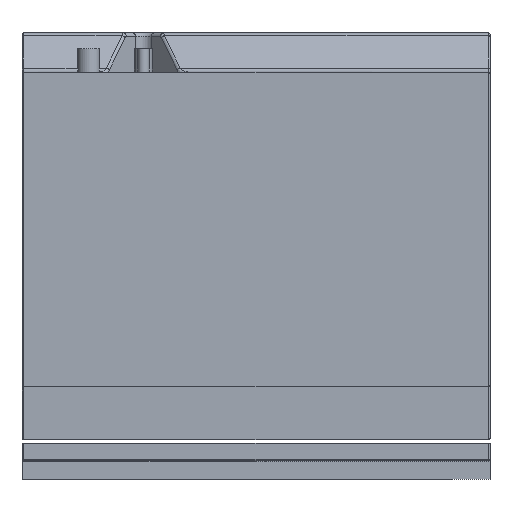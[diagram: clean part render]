
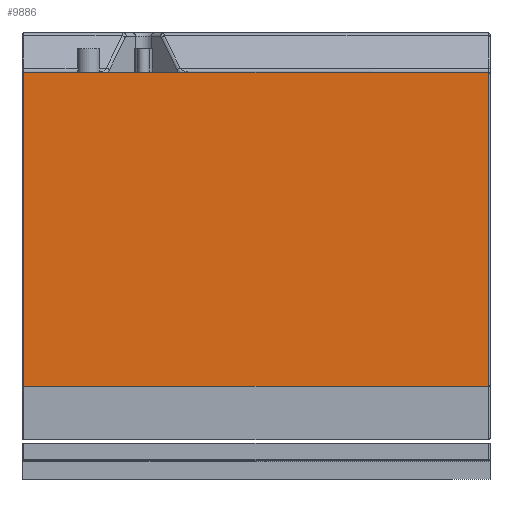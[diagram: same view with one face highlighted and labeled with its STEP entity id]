
A CAD part, front view. The second image highlights one B-rep face of the part: STEP entity #9886.
In plain terms, the highlighted planar face has unit normal (0, -1, 0).
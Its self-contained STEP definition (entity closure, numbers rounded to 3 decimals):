
#36 = EDGE_CURVE ( 'NONE', #9292, #16362, #5706, .T. ) ;
#37 = CARTESIAN_POINT ( 'NONE',  ( 299., 0., 0. ) ) ;
#1488 = CARTESIAN_POINT ( 'NONE',  ( 299., 0., 0. ) ) ;
#1980 = VECTOR ( 'NONE', #8122, 1000. ) ;
#2261 = ORIENTED_EDGE ( 'NONE', *, *, #16527, .T. ) ;
#3400 = DIRECTION ( 'NONE',  ( 0., 0., -1. ) ) ;
#3730 = VECTOR ( 'NONE', #3400, 1000. ) ;
#4087 = LINE ( 'NONE', #1488, #10950 ) ;
#4209 = EDGE_LOOP ( 'NONE', ( #2261, #5014, #5067, #5437 ) ) ;
#4679 = LINE ( 'NONE', #7855, #1980 ) ;
#4833 = VECTOR ( 'NONE', #16314, 1000. ) ;
#5014 = ORIENTED_EDGE ( 'NONE', *, *, #11289, .T. ) ;
#5067 = ORIENTED_EDGE ( 'NONE', *, *, #9782, .F. ) ;
#5437 = ORIENTED_EDGE ( 'NONE', *, *, #36, .T. ) ;
#5555 = LINE ( 'NONE', #11387, #3730 ) ;
#5706 = LINE ( 'NONE', #8548, #4833 ) ;
#6609 = PLANE ( 'NONE',  #16673 ) ;
#7855 = CARTESIAN_POINT ( 'NONE',  ( 299., 0., -401.7 ) ) ;
#8122 = DIRECTION ( 'NONE',  ( -1., 0., 0. ) ) ;
#8166 = DIRECTION ( 'NONE',  ( -1., 0., 0. ) ) ;
#8548 = CARTESIAN_POINT ( 'NONE',  ( 297., 0., 0. ) ) ;
#9292 = VERTEX_POINT ( 'NONE', #10655 ) ;
#9782 = EDGE_CURVE ( 'NONE', #9292, #15290, #4679, .T. ) ;
#9886 = ADVANCED_FACE ( 'NONE', ( #17289 ), #6609, .F. ) ;
#10386 = CARTESIAN_POINT ( 'NONE',  ( -297., 0., 0. ) ) ;
#10655 = CARTESIAN_POINT ( 'NONE',  ( 297., 0., -401.7 ) ) ;
#10950 = VECTOR ( 'NONE', #8166, 1000. ) ;
#11289 = EDGE_CURVE ( 'NONE', #13446, #15290, #5555, .T. ) ;
#11387 = CARTESIAN_POINT ( 'NONE',  ( -297., 0., 0. ) ) ;
#11845 = DIRECTION ( 'NONE',  ( 0., 1., 0. ) ) ;
#13120 = CARTESIAN_POINT ( 'NONE',  ( 297., 0., 0. ) ) ;
#13446 = VERTEX_POINT ( 'NONE', #10386 ) ;
#15290 = VERTEX_POINT ( 'NONE', #16982 ) ;
#16154 = DIRECTION ( 'NONE',  ( 0., 0., 1. ) ) ;
#16314 = DIRECTION ( 'NONE',  ( 0., 0., 1. ) ) ;
#16362 = VERTEX_POINT ( 'NONE', #13120 ) ;
#16527 = EDGE_CURVE ( 'NONE', #16362, #13446, #4087, .T. ) ;
#16673 = AXIS2_PLACEMENT_3D ( 'NONE', #37, #11845, #16154 ) ;
#16982 = CARTESIAN_POINT ( 'NONE',  ( -297., 0., -401.7 ) ) ;
#17289 = FACE_OUTER_BOUND ( 'NONE', #4209, .T. ) ;
